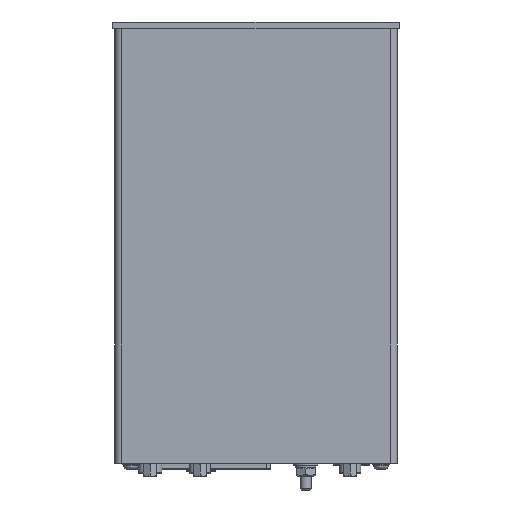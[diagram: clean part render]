
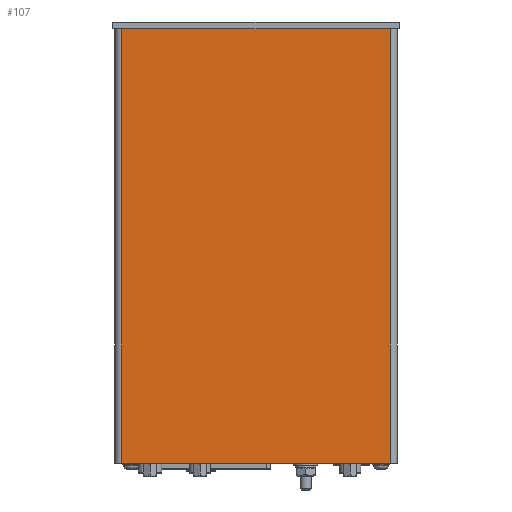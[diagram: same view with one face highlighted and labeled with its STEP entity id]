
A CAD part, front view. The second image highlights one B-rep face of the part: STEP entity #107.
In plain terms, the highlighted planar face has unit normal (0, -1, 0).
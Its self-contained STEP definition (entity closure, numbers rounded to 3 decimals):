
#68=CARTESIAN_POINT('',(0.7,11.7,-162.5));
#69=DIRECTION('',(0.0,-1.0,0.0));
#70=DIRECTION('',(0.0,0.0,1.0));
#71=AXIS2_PLACEMENT_3D('',#68,#69,#70);
#72=PLANE('',#71);
#73=CARTESIAN_POINT('',(3.2,11.7,-164.));
#74=VERTEX_POINT('',#73);
#75=CARTESIAN_POINT('',(103.2,11.7,-164.));
#76=VERTEX_POINT('',#75);
#77=CARTESIAN_POINT('',(3.2,11.7,-164.));
#78=DIRECTION('',(1.0,0.0,0.0));
#79=VECTOR('',#78,100.0);
#80=LINE('',#77,#79);
#81=EDGE_CURVE('',#74,#76,#80,.T.);
#82=ORIENTED_EDGE('',*,*,#81,.T.);
#83=CARTESIAN_POINT('',(103.2,11.7,-2.5));
#84=VERTEX_POINT('',#83);
#85=CARTESIAN_POINT('',(103.2,11.7,-164.));
#86=DIRECTION('',(0.0,0.0,1.0));
#87=VECTOR('',#86,161.5);
#88=LINE('',#85,#87);
#89=EDGE_CURVE('',#76,#84,#88,.T.);
#90=ORIENTED_EDGE('',*,*,#89,.T.);
#91=CARTESIAN_POINT('',(3.2,11.7,-2.5));
#92=VERTEX_POINT('',#91);
#93=CARTESIAN_POINT('',(103.2,11.7,-2.5));
#94=DIRECTION('',(-1.0,0.0,0.0));
#95=VECTOR('',#94,100.0);
#96=LINE('',#93,#95);
#97=EDGE_CURVE('',#84,#92,#96,.T.);
#98=ORIENTED_EDGE('',*,*,#97,.T.);
#99=CARTESIAN_POINT('',(3.2,11.7,-164.));
#100=DIRECTION('',(0.0,0.0,1.0));
#101=VECTOR('',#100,161.5);
#102=LINE('',#99,#101);
#103=EDGE_CURVE('',#74,#92,#102,.T.);
#104=ORIENTED_EDGE('',*,*,#103,.F.);
#105=EDGE_LOOP('',(#82,#90,#98,#104));
#106=FACE_OUTER_BOUND('',#105,.T.);
#107=ADVANCED_FACE('',(#106),#72,.T.);
